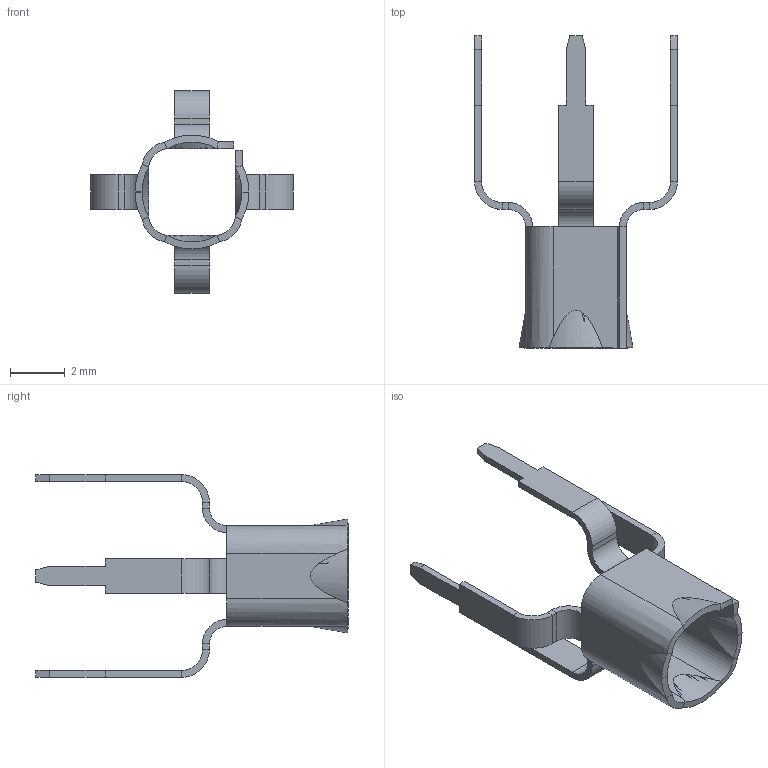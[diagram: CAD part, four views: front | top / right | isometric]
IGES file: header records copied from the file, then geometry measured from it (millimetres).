
Start section: IGES FILE FROM PTC's Pro/ENGINEER ======================================================================== Copyright 2003, Tektronix, Inc. ------------------------------------------------------------------------ This electronic file contains information proprietary to Tektronix, Inc. and is intended for distribution only to persons or organizations having a legitimate need for the drawing.  When d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
Global section: file name: probe_connector_p6137.igs; native system: Pro/ENGINEER by Parametric Technology Corporation; preprocessor: 2008490; author: thnguyen; organization: Unknown; date: 20101015.105150; units: inch
Bounding box: 7.42 x 11.43 x 7.42 mm (x, y, z)
Surface area: 206.9 mm2 (no closed solid volume)
Topology: 0 solids, 0 shells, 138 faces, 924 edges, 1232 vertices
Faces by surface type: bspline 108, revolution 30
